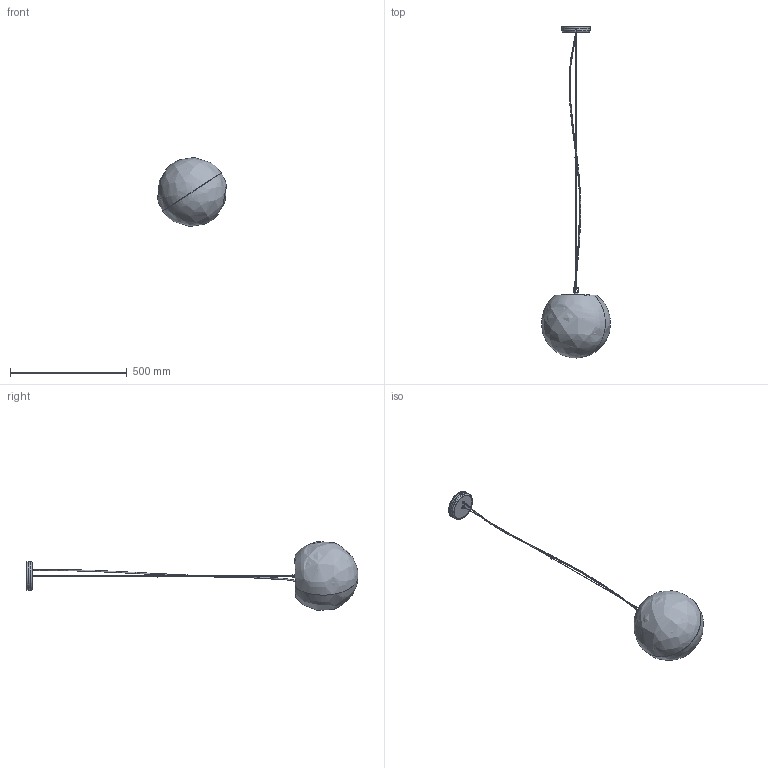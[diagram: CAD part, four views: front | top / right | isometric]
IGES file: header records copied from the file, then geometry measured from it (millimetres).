
Start section: SolidWorks IGES file using analytic representation for surfaces
Global section: file name: E:\3D lampy\Cumulus\Cumulus 300 zwis\Cumulus_9751.IGS; native system: SolidWorks 2016; preprocessor: SolidWorks 2016; author: Asia; date: 170623.110200; units: millimetre
Bounding box: 294.91 x 1423.39 x 296.24 mm (x, y, z)
Surface area: 687793.5 mm2 (no closed solid volume)
Topology: 0 solids, 0 shells, 2382 faces, 21783 edges, 21770 vertices
Faces by surface type: bspline 1936, revolution 446
